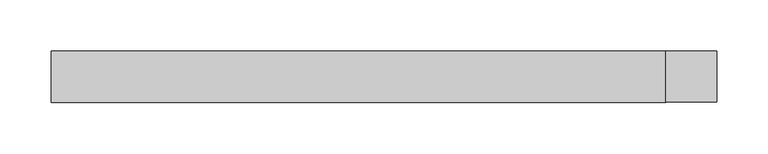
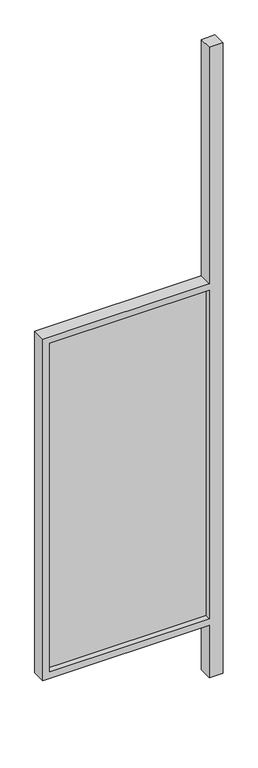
"""IFC4 building model written with IfcOpenShell, lengths in millimetres: furniture geometry, ARQ_MOB_SEPARADOR_BAÑO : SEPARADOR_BAÑO."""

from ifc_helpers import new_model, si_unit, frame, origin, place, context, project, spatial, polyline, outline, extrude, source, transform, mapped, element, save


def furniture_e9a0386f(model_context):
    return source(origin(), model_context, "Body", "SweptSolid", [
        extrude(outline(polyline([(0.0, 369.7003264), (2400.0, 369.7003264), (2400.0, 319.7003264), (1500.0, 319.7003264), (1500.0, -280.2996736), (200.0, -280.2996736), (200.0, 319.7003264), (0.0, 319.7003264), (0.0, 369.7003264)]), holes=[polyline([(225.0, 319.7003264), (225.0, -255.2996736), (1475.0, -255.2996736), (1475.0, 319.7003264), (225.0, 319.7003264)])]), frame((0.0, -50.0, 0.0), z_axis=(0.0, 1.0, 0.0), x_axis=(0.0, 0.0, 1.0)), (0.0, 0.0, 1.0), 50.0),
        extrude(outline(polyline([(319.7003264, -30.0), (-255.2996736, -30.0), (-255.2996736, -20.0), (319.7003264, -20.0), (319.7003264, -30.0)])), frame((0.0, 0.0, 225.0), z_axis=(0.0, 0.0, 1.0), x_axis=(1.0, 0.0, 0.0)), (0.0, 0.0, 1.0), 1250.0),
    ])


if __name__ == "__main__":
    model = new_model("IFC4")
    model_context = context("Model", 3, world=origin())
    ifc_project = project(units=[si_unit("LENGTHUNIT", "METRE", prefix="MILLI")], contexts=[model_context])
    site = spatial("IfcSite", under=ifc_project)
    building = spatial("IfcBuilding", under=site)
    placement = place(None, origin())
    furniture_shape = furniture_e9a0386f(model_context)
    element("IfcFurniture", 1, ObjectType="ARQ_MOB_SEPARADOR_BAÑO : SEPARADOR_BAÑO", at=placement, inside=building, context=model_context, shape_type="MappedRepresentation", body=[
        mapped(furniture_shape, transform((0.0, 0.0, 0.0), x_axis=(1.0, 0.0, 0.0), y_axis=(0.0, 1.0, 0.0), z_axis=(0.0, 0.0, 1.0))),
    ])
    save(model, "model.ifc")
